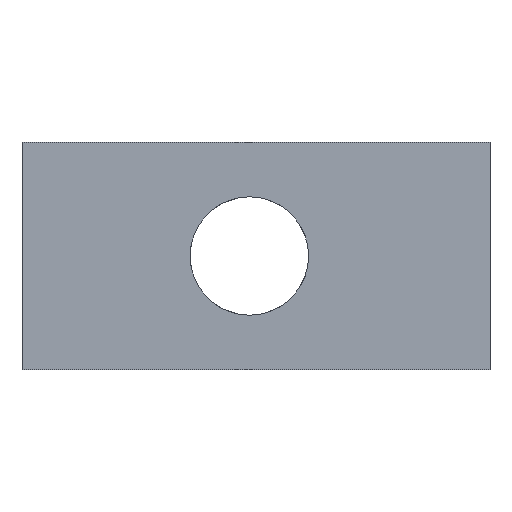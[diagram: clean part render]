
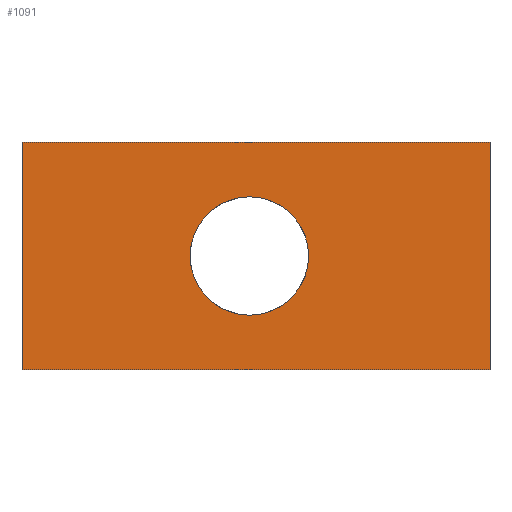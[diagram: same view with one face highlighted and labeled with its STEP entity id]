
A CAD part, front view. The second image highlights one B-rep face of the part: STEP entity #1091.
In plain terms, the highlighted planar face has unit normal (0, -1, 0).
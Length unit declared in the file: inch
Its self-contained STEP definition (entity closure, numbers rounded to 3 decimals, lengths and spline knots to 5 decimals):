
#16 = CIRCLE ( 'NONE', #1585, 0.1953 ) ;
#33 = ORIENTED_EDGE ( 'NONE', *, *, #509, .F. ) ;
#46 = VERTEX_POINT ( 'NONE', #92 ) ;
#74 = VERTEX_POINT ( 'NONE', #105 ) ;
#92 = CARTESIAN_POINT ( 'NONE',  ( 11.2065, -0.25, 0.1953 ) ) ;
#105 = CARTESIAN_POINT ( 'NONE',  ( 10.4565, -0.25, -0.375 ) ) ;
#112 = CARTESIAN_POINT ( 'NONE',  ( 11.2065, -0.25, 0. ) ) ;
#114 = DIRECTION ( 'NONE',  ( 0., -1., 0. ) ) ;
#119 = DIRECTION ( 'NONE',  ( 0., 0., -1. ) ) ;
#167 = DIRECTION ( 'NONE',  ( 0., -1., 0. ) ) ;
#182 = PLANE ( 'NONE',  #520 ) ;
#209 = AXIS2_PLACEMENT_3D ( 'NONE', #1067, #167, #1312 ) ;
#341 = DIRECTION ( 'NONE',  ( 0., 1., 0. ) ) ;
#379 = CIRCLE ( 'NONE', #209, 0.1953 ) ;
#395 = VERTEX_POINT ( 'NONE', #1240 ) ;
#407 = FACE_BOUND ( 'NONE', #1295, .T. ) ;
#424 = CARTESIAN_POINT ( 'NONE',  ( 11.2065, -0.25, -0.1953 ) ) ;
#490 = EDGE_CURVE ( 'NONE', #658, #74, #1737, .T. ) ;
#507 = CARTESIAN_POINT ( 'NONE',  ( 12., -0.25, 0.375 ) ) ;
#509 = EDGE_CURVE ( 'NONE', #658, #1258, #886, .T. ) ;
#520 = AXIS2_PLACEMENT_3D ( 'NONE', #1189, #341, #1194 ) ;
#547 = DIRECTION ( 'NONE',  ( 0., 0., -1. ) ) ;
#599 = VECTOR ( 'NONE', #547, 39.37008 ) ;
#602 = LINE ( 'NONE', #507, #599 ) ;
#658 = VERTEX_POINT ( 'NONE', #1164 ) ;
#722 = CARTESIAN_POINT ( 'NONE',  ( 10.4565, -0.25, 0.375 ) ) ;
#851 = DIRECTION ( 'NONE',  ( 0., 0., -1. ) ) ;
#868 = DIRECTION ( 'NONE',  ( 1., 0., 0. ) ) ;
#874 = CARTESIAN_POINT ( 'NONE',  ( -12., -0.25, 0.375 ) ) ;
#886 = LINE ( 'NONE', #874, #1115 ) ;
#928 = FACE_OUTER_BOUND ( 'NONE', #1668, .T. ) ;
#967 = DIRECTION ( 'NONE',  ( 1., 0., 0. ) ) ;
#980 = VECTOR ( 'NONE', #851, 39.37008 ) ;
#1009 = CARTESIAN_POINT ( 'NONE',  ( -12., -0.25, -0.375 ) ) ;
#1067 = CARTESIAN_POINT ( 'NONE',  ( 11.2065, -0.25, 0. ) ) ;
#1091 = ADVANCED_FACE ( 'NONE', ( #407, #928 ), #182, .F. ) ;
#1115 = VECTOR ( 'NONE', #868, 39.37008 ) ;
#1164 = CARTESIAN_POINT ( 'NONE',  ( 10.4565, -0.25, 0.375 ) ) ;
#1189 = CARTESIAN_POINT ( 'NONE',  ( -12., -0.25, 0.375 ) ) ;
#1194 = DIRECTION ( 'NONE',  ( -1., 0., 0. ) ) ;
#1203 = EDGE_CURVE ( 'NONE', #74, #395, #1287, .T. ) ;
#1240 = CARTESIAN_POINT ( 'NONE',  ( 12., -0.25, -0.375 ) ) ;
#1258 = VERTEX_POINT ( 'NONE', #1371 ) ;
#1287 = LINE ( 'NONE', #1009, #1692 ) ;
#1295 = EDGE_LOOP ( 'NONE', ( #1516, #1356 ) ) ;
#1312 = DIRECTION ( 'NONE',  ( 0., 0., -1. ) ) ;
#1356 = ORIENTED_EDGE ( 'NONE', *, *, #1479, .F. ) ;
#1371 = CARTESIAN_POINT ( 'NONE',  ( 12., -0.25, 0.375 ) ) ;
#1381 = ORIENTED_EDGE ( 'NONE', *, *, #490, .T. ) ;
#1387 = EDGE_CURVE ( 'NONE', #1580, #46, #379, .T. ) ;
#1479 = EDGE_CURVE ( 'NONE', #46, #1580, #16, .T. ) ;
#1516 = ORIENTED_EDGE ( 'NONE', *, *, #1387, .F. ) ;
#1580 = VERTEX_POINT ( 'NONE', #424 ) ;
#1585 = AXIS2_PLACEMENT_3D ( 'NONE', #112, #114, #119 ) ;
#1595 = ORIENTED_EDGE ( 'NONE', *, *, #1634, .F. ) ;
#1634 = EDGE_CURVE ( 'NONE', #1258, #395, #602, .T. ) ;
#1668 = EDGE_LOOP ( 'NONE', ( #33, #1381, #1684, #1595 ) ) ;
#1684 = ORIENTED_EDGE ( 'NONE', *, *, #1203, .T. ) ;
#1692 = VECTOR ( 'NONE', #967, 39.37008 ) ;
#1737 = LINE ( 'NONE', #722, #980 ) ;
